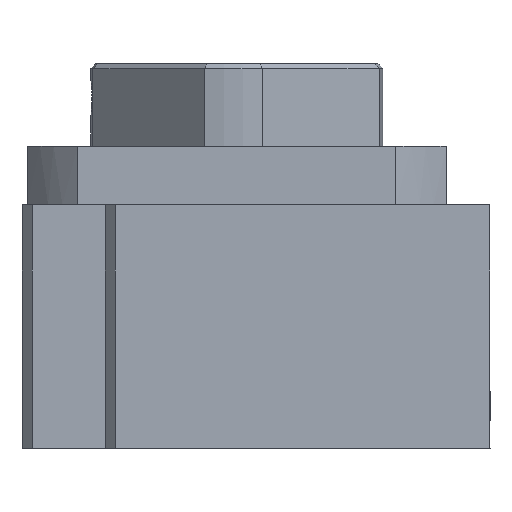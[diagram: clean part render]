
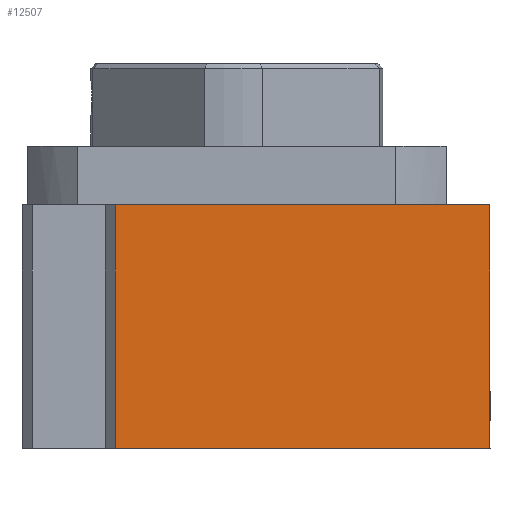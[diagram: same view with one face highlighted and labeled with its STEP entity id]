
A CAD part, left-side view. The second image highlights one B-rep face of the part: STEP entity #12507.
In plain terms, the highlighted planar face has unit normal (-1, 0, 0).
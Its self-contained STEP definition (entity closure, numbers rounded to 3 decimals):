
#132 = CARTESIAN_POINT ( 'NONE',  ( -72.245, -35.982, -25. ) ) ;
#152 = DIRECTION ( 'NONE',  ( 0., 1., 0. ) ) ;
#302 = VERTEX_POINT ( 'NONE', #9869 ) ;
#489 = ORIENTED_EDGE ( 'NONE', *, *, #15996, .F. ) ;
#1213 = CARTESIAN_POINT ( 'NONE',  ( -72.245, 15.351, -8.333 ) ) ;
#2145 = ORIENTED_EDGE ( 'NONE', *, *, #5569, .T. ) ;
#2361 = B_SPLINE_CURVE_WITH_KNOTS ( 'NONE', 3,
 ( #4104, #132, #11793, #13226 ),
 .UNSPECIFIED., .F., .F.,
 ( 4, 4 ),
 ( 0., 1. ),
 .UNSPECIFIED. ) ;
#2629 = CARTESIAN_POINT ( 'NONE',  ( -72.245, 15.351, -25. ) ) ;
#2722 = CARTESIAN_POINT ( 'NONE',  ( -72.245, 15.351, 8.333 ) ) ;
#4104 = CARTESIAN_POINT ( 'NONE',  ( -72.245, -61.649, -25. ) ) ;
#4645 = B_SPLINE_CURVE_WITH_KNOTS ( 'NONE', 3,
 ( #12986, #2722, #1213, #2629 ),
 .UNSPECIFIED., .F., .F.,
 ( 4, 4 ),
 ( 0., 1. ),
 .UNSPECIFIED. ) ;
#4936 = EDGE_CURVE ( 'NONE', #15078, #302, #4645, .T. ) ;
#5313 = ORIENTED_EDGE ( 'NONE', *, *, #4936, .T. ) ;
#5569 = EDGE_CURVE ( 'NONE', #6402, #15078, #10984, .T. ) ;
#5931 = ORIENTED_EDGE ( 'NONE', *, *, #6471, .F. ) ;
#6402 = VERTEX_POINT ( 'NONE', #7023 ) ;
#6471 = EDGE_CURVE ( 'NONE', #13341, #302, #2361, .T. ) ;
#6942 = CARTESIAN_POINT ( 'NONE',  ( -72.245, -61.649, -25. ) ) ;
#7023 = CARTESIAN_POINT ( 'NONE',  ( -72.245, -61.649, 25. ) ) ;
#8374 = CARTESIAN_POINT ( 'NONE',  ( -72.245, -61.649, -8.333 ) ) ;
#8586 = DIRECTION ( 'NONE',  ( 1., 0., 0. ) ) ;
#8776 = CARTESIAN_POINT ( 'NONE',  ( -72.245, -61.649, 25. ) ) ;
#9869 = CARTESIAN_POINT ( 'NONE',  ( -72.245, 15.351, -25. ) ) ;
#10984 = B_SPLINE_CURVE_WITH_KNOTS ( 'NONE', 3,
 ( #12269, #16274, #13698, #15041 ),
 .UNSPECIFIED., .F., .F.,
 ( 4, 4 ),
 ( 0., 1. ),
 .UNSPECIFIED. ) ;
#11228 = AXIS2_PLACEMENT_3D ( 'NONE', #8776, #8586, #152 ) ;
#11398 = CARTESIAN_POINT ( 'NONE',  ( -72.245, -61.649, 8.333 ) ) ;
#11687 = CARTESIAN_POINT ( 'NONE',  ( -72.245, 15.351, 25. ) ) ;
#11793 = CARTESIAN_POINT ( 'NONE',  ( -72.245, -10.316, -25. ) ) ;
#12269 = CARTESIAN_POINT ( 'NONE',  ( -72.245, -61.649, 25. ) ) ;
#12507 = ADVANCED_FACE ( 'NONE', ( #17230 ), #15798, .F. ) ;
#12986 = CARTESIAN_POINT ( 'NONE',  ( -72.245, 15.351, 25. ) ) ;
#13226 = CARTESIAN_POINT ( 'NONE',  ( -72.245, 15.351, -25. ) ) ;
#13341 = VERTEX_POINT ( 'NONE', #15529 ) ;
#13698 = CARTESIAN_POINT ( 'NONE',  ( -72.245, -10.316, 25. ) ) ;
#15041 = CARTESIAN_POINT ( 'NONE',  ( -72.245, 15.351, 25. ) ) ;
#15078 = VERTEX_POINT ( 'NONE', #11687 ) ;
#15529 = CARTESIAN_POINT ( 'NONE',  ( -72.245, -61.649, -25. ) ) ;
#15798 = PLANE ( 'NONE',  #11228 ) ;
#15963 = CARTESIAN_POINT ( 'NONE',  ( -72.245, -61.649, 25. ) ) ;
#15996 = EDGE_CURVE ( 'NONE', #6402, #13341, #16701, .T. ) ;
#16274 = CARTESIAN_POINT ( 'NONE',  ( -72.245, -35.982, 25. ) ) ;
#16701 = B_SPLINE_CURVE_WITH_KNOTS ( 'NONE', 3,
 ( #15963, #11398, #8374, #6942 ),
 .UNSPECIFIED., .F., .F.,
 ( 4, 4 ),
 ( 0., 1. ),
 .UNSPECIFIED. ) ;
#17230 = FACE_OUTER_BOUND ( 'NONE', #17293, .T. ) ;
#17293 = EDGE_LOOP ( 'NONE', ( #2145, #5313, #5931, #489 ) ) ;
